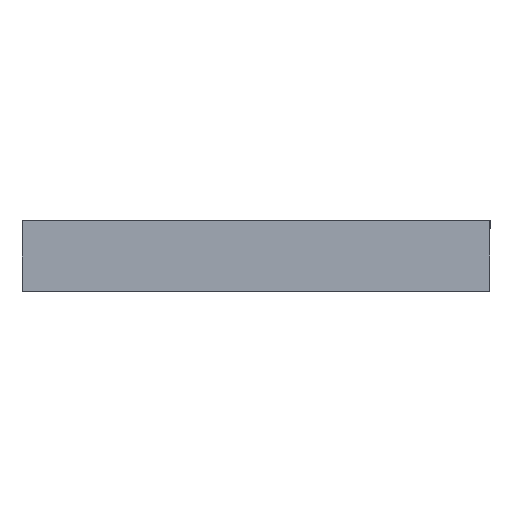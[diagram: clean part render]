
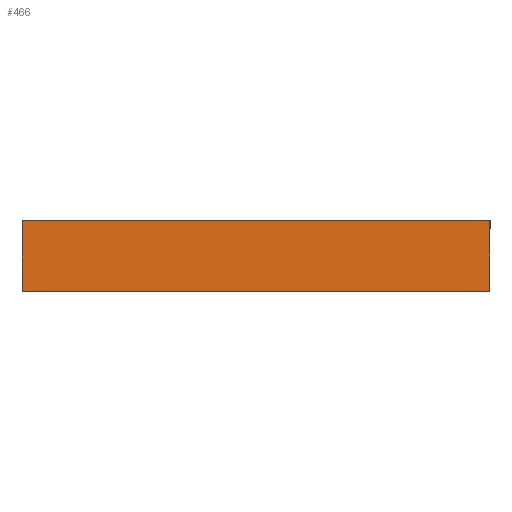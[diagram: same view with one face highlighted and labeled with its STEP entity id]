
A CAD part, left-side view. The second image highlights one B-rep face of the part: STEP entity #466.
In plain terms, the highlighted planar face has unit normal (-1, 0, 0).
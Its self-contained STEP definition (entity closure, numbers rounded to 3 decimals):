
#23 = EDGE_CURVE ( 'NONE', #814, #740, #245, .T. ) ;
#24 = EDGE_CURVE ( 'NONE', #772, #811, #250, .T. ) ;
#66 = AXIS2_PLACEMENT_3D ( 'NONE', #578, #570, #569 ) ;
#78 = EDGE_CURVE ( 'NONE', #772, #814, #167, .T. ) ;
#87 = EDGE_CURVE ( 'NONE', #811, #740, #151, .T. ) ;
#144 = FACE_OUTER_BOUND ( 'NONE', #278, .T. ) ;
#150 = VECTOR ( 'NONE', #702, 1000. ) ;
#151 = LINE ( 'NONE', #703, #150 ) ;
#166 = VECTOR ( 'NONE', #726, 1000. ) ;
#167 = LINE ( 'NONE', #728, #166 ) ;
#242 = VECTOR ( 'NONE', #546, 1000. ) ;
#244 = VECTOR ( 'NONE', #561, 1000. ) ;
#245 = LINE ( 'NONE', #562, #244 ) ;
#250 = LINE ( 'NONE', #571, #242 ) ;
#278 = EDGE_LOOP ( 'NONE', ( #368, #367, #369, #370 ) ) ;
#367 = ORIENTED_EDGE ( 'NONE', *, *, #23, .F. ) ;
#368 = ORIENTED_EDGE ( 'NONE', *, *, #87, .T. ) ;
#369 = ORIENTED_EDGE ( 'NONE', *, *, #78, .F. ) ;
#370 = ORIENTED_EDGE ( 'NONE', *, *, #24, .T. ) ;
#466 = ADVANCED_FACE ( 'NONE', ( #144 ), #581, .F. ) ;
#504 = CARTESIAN_POINT ( 'NONE',  ( -251., 0., 65. ) ) ;
#505 = CARTESIAN_POINT ( 'NONE',  ( -251., 429., 0. ) ) ;
#518 = CARTESIAN_POINT ( 'NONE',  ( -251., 429., 65. ) ) ;
#529 = CARTESIAN_POINT ( 'NONE',  ( -251., 0., 0. ) ) ;
#546 = DIRECTION ( 'NONE',  ( 0., 0., -1. ) ) ;
#561 = DIRECTION ( 'NONE',  ( 0., 0., -1. ) ) ;
#562 = CARTESIAN_POINT ( 'NONE',  ( -251., 0., 65. ) ) ;
#569 = DIRECTION ( 'NONE',  ( 0., 1., 0. ) ) ;
#570 = DIRECTION ( 'NONE',  ( 1., 0., 0. ) ) ;
#571 = CARTESIAN_POINT ( 'NONE',  ( -251., 429., 65. ) ) ;
#578 = CARTESIAN_POINT ( 'NONE',  ( -251., 0., 65. ) ) ;
#581 = PLANE ( 'NONE',  #66 ) ;
#702 = DIRECTION ( 'NONE',  ( 0., -1., 0. ) ) ;
#703 = CARTESIAN_POINT ( 'NONE',  ( -251., 0., 0. ) ) ;
#726 = DIRECTION ( 'NONE',  ( 0., -1., 0. ) ) ;
#728 = CARTESIAN_POINT ( 'NONE',  ( -251., 0., 65. ) ) ;
#740 = VERTEX_POINT ( 'NONE', #529 ) ;
#772 = VERTEX_POINT ( 'NONE', #518 ) ;
#811 = VERTEX_POINT ( 'NONE', #505 ) ;
#814 = VERTEX_POINT ( 'NONE', #504 ) ;
